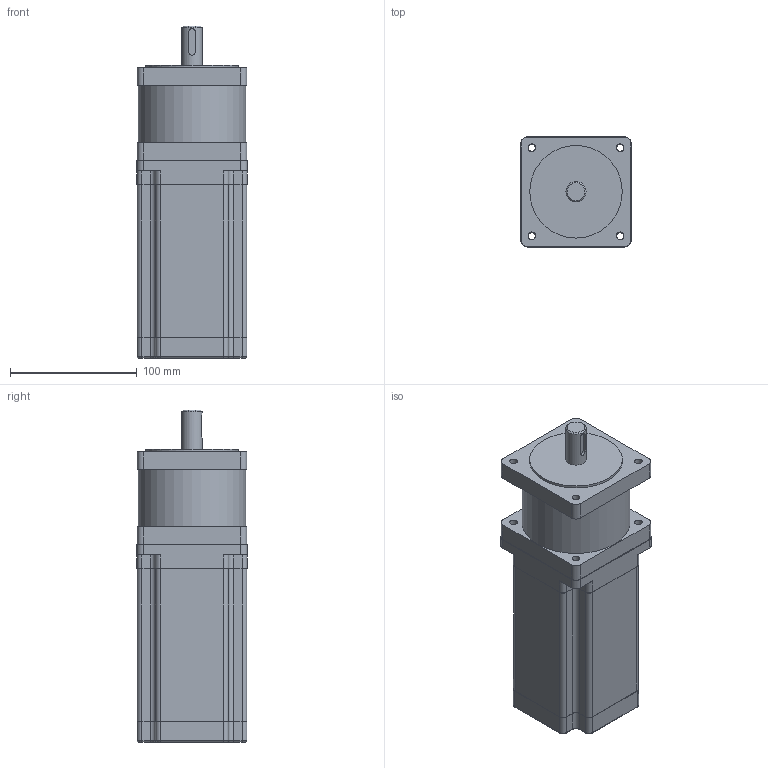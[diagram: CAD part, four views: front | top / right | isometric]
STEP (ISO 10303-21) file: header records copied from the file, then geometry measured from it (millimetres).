
FILE_DESCRIPTION(/* description */ (''),/* implementation_level */ '2;1');
FILE_NAME(/* name */ '\\JOINapp01\Profiles\martins\Desktop\HT34-487-R10.step',/* time_stamp */ '2018-02-28T12:37:53-03:00',/* author */ ('martins'),/* organization */ (''),/* preprocessor_version */ 'ST-DEVELOPER v16.1',/* originating_system */ 'Autodesk Inventor 2016',/* authorisation */ '');
FILE_SCHEMA (('AUTOMOTIVE_DESIGN { 1 0 10303 214 3 1 1 }'));
Length unit declared in the file: millimetre
Products named in the file (2): KTC HT34_487; Assembly1
Assembly tree (1 placements, depth 2):
  Assembly1
    KTC HT34_487
Bounding box: 87 x 87 x 262 mm (x, y, z)
Volume: 1464429.4 mm3; surface area: 105446.8 mm2
Topology: 1 solids, 3 shells, 457 faces, 1215 edges, 795 vertices
Faces by surface type: plane 280, cylinder 85, bspline 70, torus 16, cone 6
Full cylindrical faces by diameter (mm): 5.5 x4, 6.1 x8, 12.7 x1, 16 x1, 35 x2, 73 x1, 85.091 x1
Entity records: 14997 total; most frequent: CARTESIAN_POINT 3531, ORIENTED_EDGE 2376, DIRECTION 2004, EDGE_CURVE 1188, LINE 860, VECTOR 860, VERTEX_POINT 791, AXIS2_PLACEMENT_3D 572
